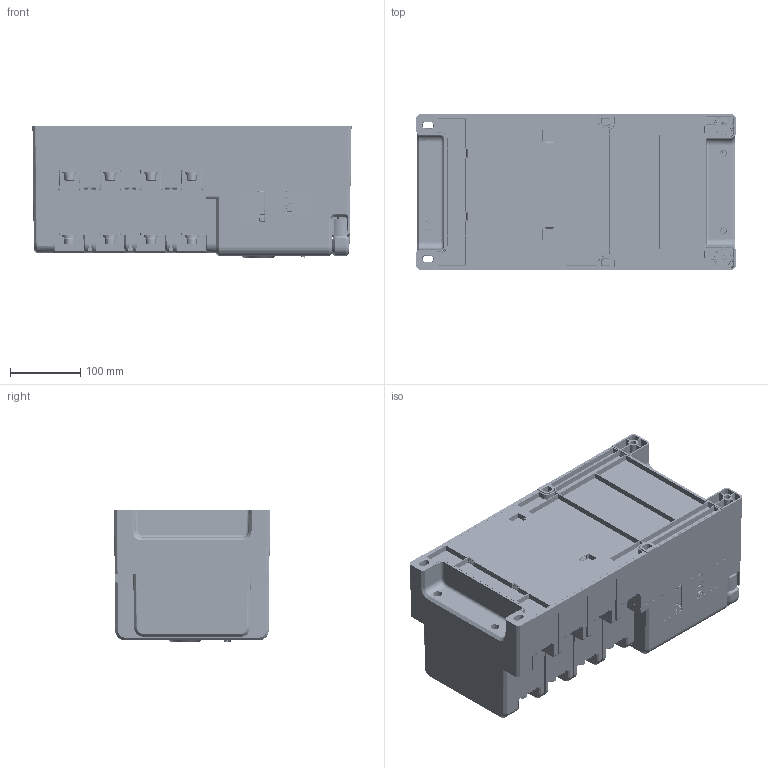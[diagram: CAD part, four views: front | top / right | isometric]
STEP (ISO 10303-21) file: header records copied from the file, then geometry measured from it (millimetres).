
FILE_DESCRIPTION (( 'STEP AP203' ), '1' );
FILE_NAME ('400-20250314.STEP', '2025-03-15T00:11:45', ( '' ), ( '' ), 'SwSTEP 2.0', 'SolidWorks 2020', '' );
FILE_SCHEMA (( 'CONFIG_CONTROL_DESIGN' ));
Length unit declared in the file: millimetre
Products named in the file (43): HEX_NUTS__STYLE_1-GRADES_AB_GB1; 400莉こ芞1.sldasm-Part-4; 400-Assem11; I_(__-_flexible1); SCALE1_1__A; _X2_FFFDFFFDFFFDFFFDFFFDFFFDFFF_ASM-9; 400莉こ芞1.sldasm-Part-9; _X2_FFFDFFFDFFFDFFFDFFFDFFFDFFF_ASM-7; 400-____-1; 400-20250314; _X2_FFFDFFFDFFFDFFFDFFFDFFFDFFF_ASM-3; 400莉こ芞1.sldasm-Part-10; II_(__-_flexible1); _X2_FFFDFFFDFFFDFFFDFFFDFFFDFFF_ASM; ____-I-1; ____-2-1; 400莉こ芞1.sldasm-Part-3; ____-4; _____; _X2_FFFDFFFDFFFDFFFDFFFDFFFDFFF_ASM-6; 400莉こ芞1.sldasm-Part-11; SCALE1_2__A; ___-6; M4X20; 400莉こ芞1.sldasm-Part-1; _X2_FFFDFFFDFFFDFFFDFFFDFFFDFFF_ASM-5; ____-3; PLAIN_WASHERS--PRODUCT_GRADE_C_; 400莉こ芞1.sldasm-Part-7; SPRING_LOCK_WASHERS--NORMAL_TYP; _X2_FFFDFFFD037FFFFDFFFD_X0__A1_ASM; 400莉こ芞1.sldasm-Part-8; M10X10_X2_FFFDFFFDFFFDFFFDFFFDF; 400莉こ芞1.sldasm-Part-5; 400莉こ芞1.sldasm-Part-2; _X2_FFFDFFFDFFFDFFFDFFFDFFFDFFF_ASM-8; _X2_FFFDFFFDFFFDFFFDFFFDFFFDFFF_ASM-10; _X2_FFFDFFFDFFFDFFFDFFFDFFFDFFF_ASM-2; _X2_FFFDFFFDFFFDFFFDFFFDFFFDFFF_ASM-4; _X2_FFFDFFFDFFFDFFFDFFFDFFFDFFF_ASM-11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
Assembly tree (106 placements, depth 5):
  400-20250314
    400-Assem11
      II_(__-_flexible1)
        _X2_FFFDFFFDFFFDFFFDFFFDFFFDFFF_ASM
          SPRING_LOCK_WASHERS--NORMAL_TYP
          PLAIN_WASHERS--PRODUCT_GRADE_C_
          HEX_NUTS__STYLE_1-GRADES_AB_GB1
          M10X10_X2_FFFDFFFDFFFDFFFDFFFDF
        _X2_FFFDFFFDFFFDFFFDFFFDFFFDFFF_ASM-1
          SPRING_LOCK_WASHERS--NORMAL_TYP
          PLAIN_WASHERS--PRODUCT_GRADE_C_
          HEX_NUTS__STYLE_1-GRADES_AB_GB1
          M10X10_X2_FFFDFFFDFFFDFFFDFFFDF
        _X2_FFFDFFFDFFFDFFFDFFFDFFFDFFF_ASM-2
          SPRING_LOCK_WASHERS--NORMAL_TYP
          PLAIN_WASHERS--PRODUCT_GRADE_C_
          HEX_NUTS__STYLE_1-GRADES_AB_GB1
          M10X10_X2_FFFDFFFDFFFDFFFDFFFDF
        _X2_FFFDFFFDFFFDFFFDFFFDFFFDFFF_ASM-3
          SPRING_LOCK_WASHERS--NORMAL_TYP
          PLAIN_WASHERS--PRODUCT_GRADE_C_
          HEX_NUTS__STYLE_1-GRADES_AB_GB1
          M10X10_X2_FFFDFFFDFFFDFFFDFFFDF
        ____-3  x4
        ____-4  x4
        400-____-1
      I_(__-_flexible1)
        _X2_FFFDFFFDFFFDFFFDFFFDFFFDFFF_ASM-4
          SPRING_LOCK_WASHERS--NORMAL_TYP
          PLAIN_WASHERS--PRODUCT_GRADE_C_
          HEX_NUTS__STYLE_1-GRADES_AB_GB1
          M10X10_X2_FFFDFFFDFFFDFFFDFFFDF
        _X2_FFFDFFFDFFFDFFFDFFFDFFFDFFF_ASM-5
          SPRING_LOCK_WASHERS--NORMAL_TYP
          PLAIN_WASHERS--PRODUCT_GRADE_C_
          HEX_NUTS__STYLE_1-GRADES_AB_GB1
          M10X10_X2_FFFDFFFDFFFDFFFDFFFDF
        _X2_FFFDFFFDFFFDFFFDFFFDFFFDFFF_ASM-6
          SPRING_LOCK_WASHERS--NORMAL_TYP
          PLAIN_WASHERS--PRODUCT_GRADE_C_
          HEX_NUTS__STYLE_1-GRADES_AB_GB1
          M10X10_X2_FFFDFFFDFFFDFFFDFFFDF
        _X2_FFFDFFFDFFFDFFFDFFFDFFFDFFF_ASM-7
          SPRING_LOCK_WASHERS--NORMAL_TYP
          PLAIN_WASHERS--PRODUCT_GRADE_C_
          HEX_NUTS__STYLE_1-GRADES_AB_GB1
          M10X10_X2_FFFDFFFDFFFDFFFDFFFDF
        _X2_FFFDFFFDFFFDFFFDFFFDFFFDFFF_ASM-8
          SPRING_LOCK_WASHERS--NORMAL_TYP
          PLAIN_WASHERS--PRODUCT_GRADE_C_
          HEX_NUTS__STYLE_1-GRADES_AB_GB1
          M10X10_X2_FFFDFFFDFFFDFFFDFFFDF
        _X2_FFFDFFFDFFFDFFFDFFFDFFFDFFF_ASM-9
          SPRING_LOCK_WASHERS--NORMAL_TYP
          PLAIN_WASHERS--PRODUCT_GRADE_C_
          HEX_NUTS__STYLE_1-GRADES_AB_GB1
          M10X10_X2_FFFDFFFDFFFDFFFDFFFDF
        _X2_FFFDFFFDFFFDFFFDFFFDFFFDFFF_ASM-10
          SPRING_LOCK_WASHERS--NORMAL_TYP
          PLAIN_WASHERS--PRODUCT_GRADE_C_
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Bounding box: 454.1 x 222.02 x 189 mm (x, y, z)
Volume: 4670217.9 mm3; surface area: 2089055.8 mm2
Topology: 107 solids, 107 shells, 25365 faces, 63101 edges, 41090 vertices
Faces by surface type: plane 21072, cylinder 2140, cone 1649, bspline 341, torus 98, sphere 65
Entity records: 382900 total; most frequent: CARTESIAN_POINT 82424, ORIENTED_EDGE 62628, DIRECTION 57148, EDGE_CURVE 31314, LINE 25452, VECTOR 25452, VERTEX_POINT 20114, AXIS2_PLACEMENT_3D 15848
